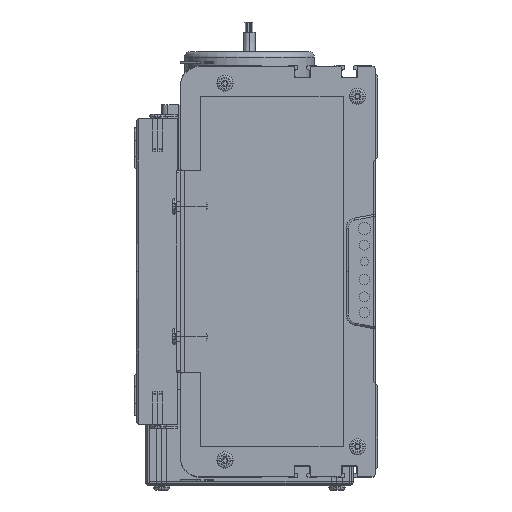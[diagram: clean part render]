
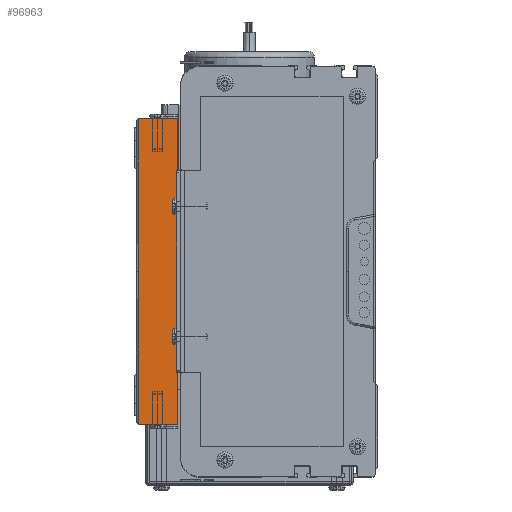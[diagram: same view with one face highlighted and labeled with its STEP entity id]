
A CAD part, left-side view. The second image highlights one B-rep face of the part: STEP entity #96963.
In plain terms, the highlighted planar face has unit normal (-1, 0, 0).
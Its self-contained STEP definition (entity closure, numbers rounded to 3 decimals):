
#19592 = CARTESIAN_POINT ( 'NONE',  ( 0., 0., -75. ) ) ;
#20047 = CARTESIAN_POINT ( 'NONE',  ( 0., 0., 75. ) ) ;
#20126 = LINE ( 'NONE', #20151, #20244 ) ;
#20151 = CARTESIAN_POINT ( 'NONE',  ( 0., 0., 0. ) ) ;
#20242 = DIRECTION ( 'NONE',  ( 0., 0., 1. ) ) ;
#20244 = VECTOR ( 'NONE', #20242, 1000. ) ;
#96399 = VERTEX_POINT ( 'NONE', #19592 ) ;
#96493 = VERTEX_POINT ( 'NONE', #20047 ) ;
#96558 = EDGE_CURVE ( 'NONE', #96399, #96493, #20126, .T. ) ;
#96623 = ORIENTED_EDGE ( 'NONE', *, *, #96558, .T. ) ;
#96664 = EDGE_CURVE ( 'NONE', #96667, #96493, #144715, .T. ) ;
#96667 = VERTEX_POINT ( 'NONE', #144831 ) ;
#96805 = EDGE_CURVE ( 'NONE', #96667, #96967, #145381, .T. ) ;
#96807 = VERTEX_POINT ( 'NONE', #145253 ) ;
#96810 = ORIENTED_EDGE ( 'NONE', *, *, #96969, .T. ) ;
#96811 = EDGE_LOOP ( 'NONE', ( #96821, #96968, #96810, #96858, #96623 ) ) ;
#96812 = EDGE_CURVE ( 'NONE', #96807, #96399, #145364, .T. ) ;
#96821 = ORIENTED_EDGE ( 'NONE', *, *, #96664, .F. ) ;
#96858 = ORIENTED_EDGE ( 'NONE', *, *, #96812, .T. ) ;
#96963 = ADVANCED_FACE ( 'NONE', ( #145966 ), #145952, .F. ) ;
#96967 = VERTEX_POINT ( 'NONE', #146057 ) ;
#96968 = ORIENTED_EDGE ( 'NONE', *, *, #96805, .T. ) ;
#96969 = EDGE_CURVE ( 'NONE', #96967, #96807, #146046, .T. ) ;
#144714 = CARTESIAN_POINT ( 'NONE',  ( 0., 20., 75. ) ) ;
#144715 = LINE ( 'NONE', #144714, #144807 ) ;
#144806 = DIRECTION ( 'NONE',  ( 0., -1., 0. ) ) ;
#144807 = VECTOR ( 'NONE', #144806, 1000. ) ;
#144831 = CARTESIAN_POINT ( 'NONE',  ( 0., 19., 75. ) ) ;
#145253 = CARTESIAN_POINT ( 'NONE',  ( 0., 19., -75. ) ) ;
#145328 = VECTOR ( 'NONE', #145331, 1000. ) ;
#145331 = DIRECTION ( 'NONE',  ( 0., -1., 0. ) ) ;
#145333 = CARTESIAN_POINT ( 'NONE',  ( 0., 20., -75. ) ) ;
#145364 = LINE ( 'NONE', #145333, #145328 ) ;
#145369 = DIRECTION ( 'NONE',  ( 0., 0., -1. ) ) ;
#145370 = VECTOR ( 'NONE', #145369, 1000. ) ;
#145380 = CARTESIAN_POINT ( 'NONE',  ( 0., 19., 0. ) ) ;
#145381 = LINE ( 'NONE', #145380, #145370 ) ;
#145926 = AXIS2_PLACEMENT_3D ( 'NONE', #145973, #145971, #145938 ) ;
#145938 = DIRECTION ( 'NONE',  ( 0., 0., -1. ) ) ;
#145952 = PLANE ( 'NONE',  #145926 ) ;
#145966 = FACE_OUTER_BOUND ( 'NONE', #96811, .T. ) ;
#145971 = DIRECTION ( 'NONE',  ( 1., 0., 0. ) ) ;
#145973 = CARTESIAN_POINT ( 'NONE',  ( 0., 20., 0. ) ) ;
#146036 = DIRECTION ( 'NONE',  ( 0., 0., -1. ) ) ;
#146038 = VECTOR ( 'NONE', #146036, 1000. ) ;
#146045 = CARTESIAN_POINT ( 'NONE',  ( 0., 19., 0. ) ) ;
#146046 = LINE ( 'NONE', #146045, #146038 ) ;
#146057 = CARTESIAN_POINT ( 'NONE',  ( 0., 19., 0. ) ) ;
